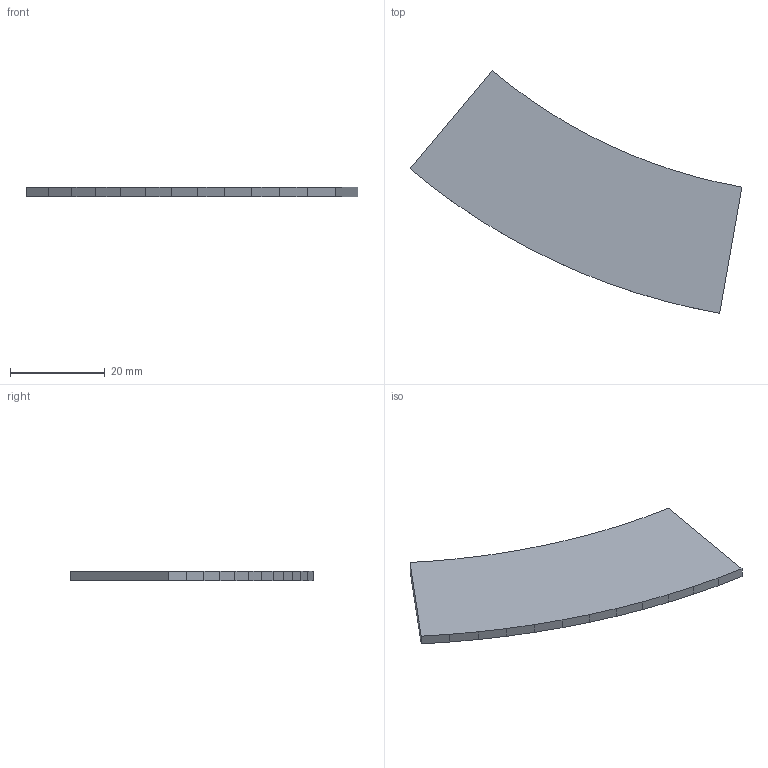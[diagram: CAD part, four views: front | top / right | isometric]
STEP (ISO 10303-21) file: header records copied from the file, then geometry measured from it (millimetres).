
FILE_DESCRIPTION(('Open CASCADE Model'),'2;1');
FILE_NAME('Open CASCADE Shape Model','2026-10-04T01:02:27',('Author'),( 'Open CASCADE'),'Open CASCADE STEP processor 8.0','Open CASCADE 8.0' ,'Unknown');
FILE_SCHEMA(('AUTOMOTIVE_DESIGN { 1 0 10303 214 1 1 1 1 }'));
Length unit declared in the file: millimetre
Products named in the file (1): Open CASCADE STEP translator 8.0 98
Bounding box: 69.9 x 51.09 x 2 mm (x, y, z)
Volume: 3547.3 mm3; surface area: 3918.1 mm2
Topology: 1 solids, 1 shells, 28 faces, 78 edges, 52 vertices
Faces by surface type: plane 28
Entity records: 1906 total; most frequent: CARTESIAN_POINT 315, DIRECTION 292, LINE 234, VECTOR 234, ORIENTED_EDGE 156, PCURVE 156, DEFINITIONAL_REPRESENTATION 156, EDGE_CURVE 78
